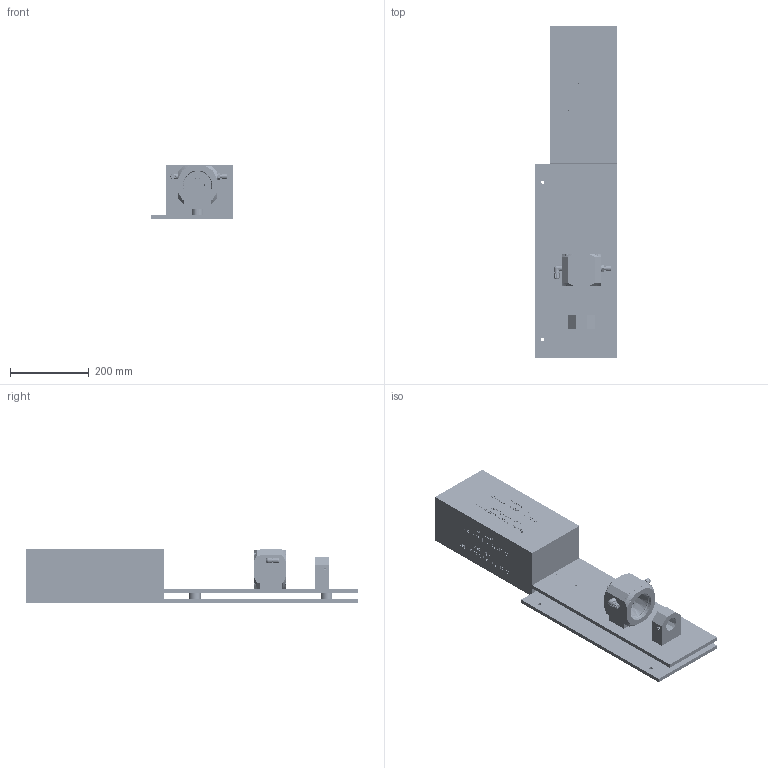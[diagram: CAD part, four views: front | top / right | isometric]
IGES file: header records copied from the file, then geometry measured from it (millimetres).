
Start section: SolidWorks IGES file using analytic representation for surfaces
Global section: file name: C:\Users\aloerke\Desktop\Arbeits-Ordner\Volker\LZX866_TD_00000__001.IGS; native system: SolidWorks 2022; preprocessor: SolidWorks 2022; author: aloerke; date: 230428.090443; units: millimetre
Bounding box: 210 x 845 x 135 mm (x, y, z)
Surface area: 831041.7 mm2 (no closed solid volume)
Topology: 0 solids, 0 shells, 3660 faces, 52998 edges, 52957 vertices
Faces by surface type: bspline 3195, revolution 465
